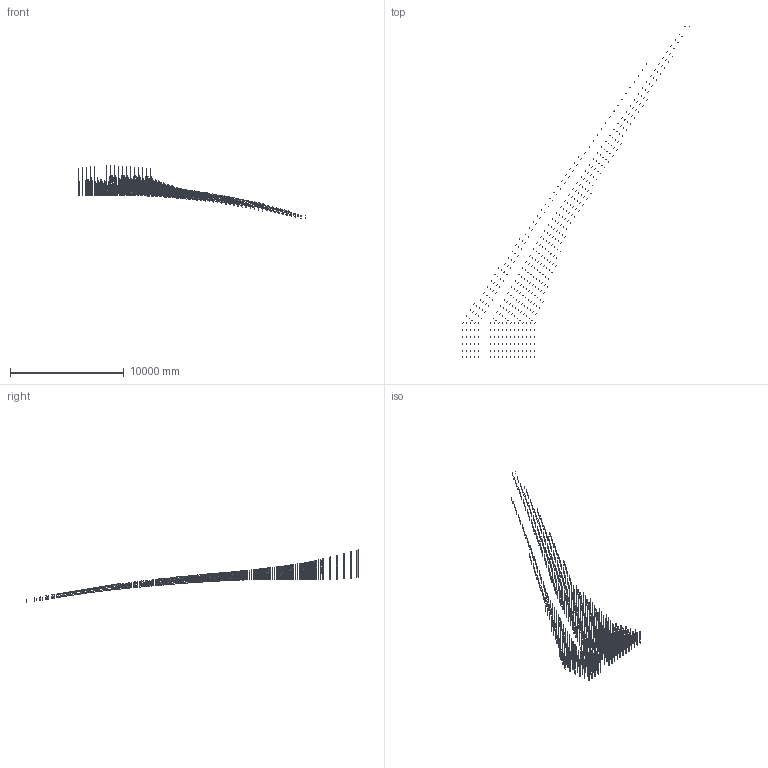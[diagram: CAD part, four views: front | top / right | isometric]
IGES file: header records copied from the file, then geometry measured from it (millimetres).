
Global section: file name: E:\temp\CRM_rib_stiffener.igs; native system: NX V8.5; preprocessor: SIEMENS PLM Software NX 8.5; date: 20140115.094259; units: inch
Bounding box: 19979.55 x 29241.83 x 4631.18 mm (x, y, z)
Surface area: 37346546.2 mm2 (no closed solid volume)
Topology: 0 solids, 0 shells, 490 faces, 1966 edges, 1966 vertices
Faces by surface type: bspline 490
